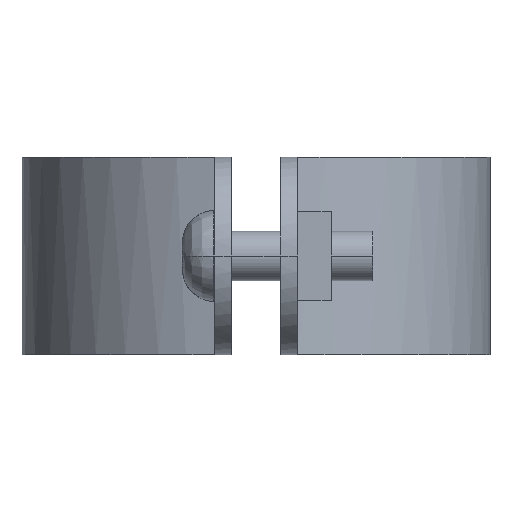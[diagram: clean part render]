
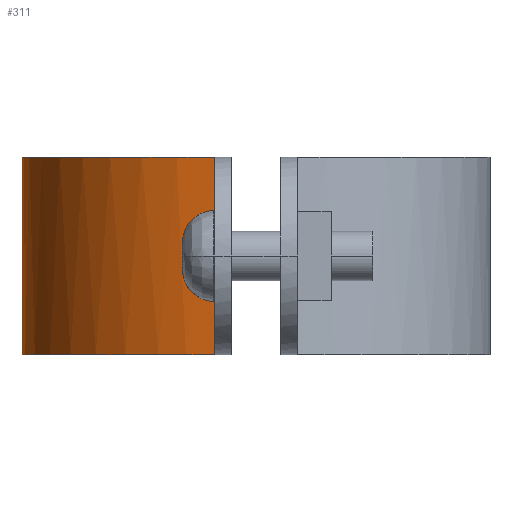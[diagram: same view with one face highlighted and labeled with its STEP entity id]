
A CAD part, left-side view. The second image highlights one B-rep face of the part: STEP entity #311.
In plain terms, the highlighted free-form (B-spline) face has degree [3, 1] with [4, 2] control points.
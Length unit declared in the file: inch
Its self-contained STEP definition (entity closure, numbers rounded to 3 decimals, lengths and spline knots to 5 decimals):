
#311=ADVANCED_FACE('',(#587),#588,.T.);
#587=FACE_OUTER_BOUND('',#1308,.T.);
#588=B_SPLINE_SURFACE_WITH_KNOTS('',3,1,((#1309,#1310),(#1311,#1312),(#1313,#1314),(#1315,#1316)),.UNSPECIFIED.,.F.,.F.,.F.,(4,4),(2,2),(-1.0,-0.0),(0.0,1.25),.UNSPECIFIED.);
#1308=EDGE_LOOP('',(#1931,#1932,#1933,#1934));
#1309=CARTESIAN_POINT('',(2.19002,3.14206,0.0));
#1310=CARTESIAN_POINT('',(2.19002,3.14206,1.25));
#1311=CARTESIAN_POINT('',(1.47289,3.14206,0.0));
#1312=CARTESIAN_POINT('',(1.47289,3.14206,1.25));
#1313=CARTESIAN_POINT('',(0.85876,2.62828,0.0));
#1314=CARTESIAN_POINT('',(0.85876,2.62828,1.25));
#1315=CARTESIAN_POINT('',(0.73218,1.92238,0.0));
#1316=CARTESIAN_POINT('',(0.73218,1.92238,1.25));
#1931=ORIENTED_EDGE('',*,*,#2206,.T.);
#1932=ORIENTED_EDGE('',*,*,#2187,.T.);
#1933=ORIENTED_EDGE('',*,*,#2142,.T.);
#1934=ORIENTED_EDGE('',*,*,#2030,.F.);
#2030=EDGE_CURVE('',#2352,#2354,#2355,.T.);
#2142=EDGE_CURVE('',#2527,#2354,#2528,.T.);
#2187=EDGE_CURVE('',#2582,#2527,#2584,.T.);
#2206=EDGE_CURVE('',#2352,#2582,#2605,.T.);
#2352=VERTEX_POINT('',#2863);
#2354=VERTEX_POINT('',#2866);
#2355=LINE('',#2867,#2868);
#2527=VERTEX_POINT('',#3176);
#2528=B_SPLINE_CURVE_WITH_KNOTS('',3,(#3177,#3178,#3179,#3180),.UNSPECIFIED.,.F.,.F.,(4,4),(0.0,1.0),.UNSPECIFIED.);
#2582=VERTEX_POINT('',#3344);
#2584=LINE('',#3347,#3348);
#2605=B_SPLINE_CURVE_WITH_KNOTS('',3,(#3385,#3386,#3387,#3388),.UNSPECIFIED.,.F.,.F.,(4,4),(-1.0,-0.0),.UNSPECIFIED.);
#2863=CARTESIAN_POINT('',(2.19002,3.14206,0.00011));
#2866=CARTESIAN_POINT('',(2.19002,3.14206,1.24989));
#2867=CARTESIAN_POINT('',(2.19002,3.14206,0.0));
#2868=VECTOR('',#3501,1.0);
#3176=CARTESIAN_POINT('',(0.73218,1.92238,1.24989));
#3177=CARTESIAN_POINT('',(0.73218,1.92238,1.24989));
#3178=CARTESIAN_POINT('',(0.85876,2.62828,1.24989));
#3179=CARTESIAN_POINT('',(1.47289,3.14206,1.24989));
#3180=CARTESIAN_POINT('',(2.19002,3.14206,1.24989));
#3344=CARTESIAN_POINT('',(0.73218,1.92238,0.00011));
#3347=CARTESIAN_POINT('',(0.73218,1.92238,0.0));
#3348=VECTOR('',#3590,1.0);
#3385=CARTESIAN_POINT('',(2.19002,3.14206,0.00011));
#3386=CARTESIAN_POINT('',(1.47289,3.14206,0.00011));
#3387=CARTESIAN_POINT('',(0.85876,2.62828,0.00011));
#3388=CARTESIAN_POINT('',(0.73218,1.92238,0.00011));
#3501=DIRECTION('',(0.0,0.0,1.0));
#3590=DIRECTION('',(0.0,0.0,1.0));
